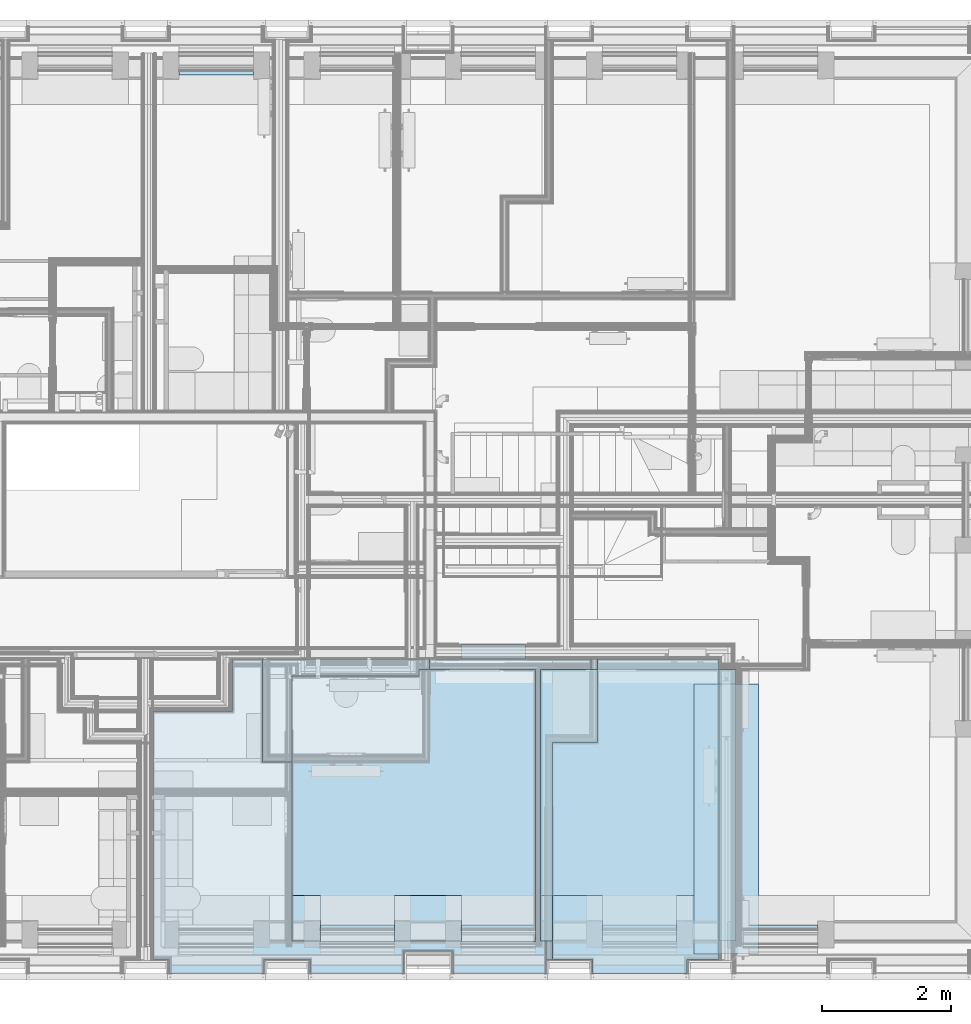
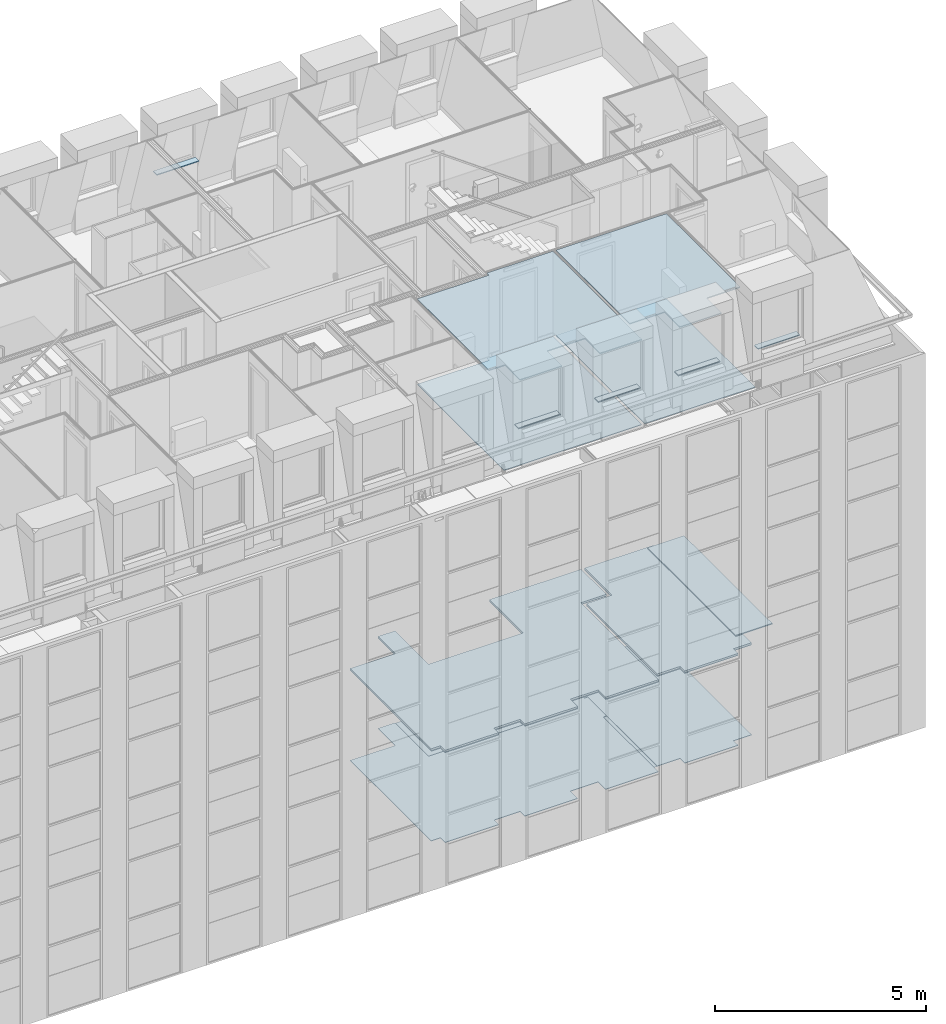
# One storey, part 76 of 169: 22 slabs.
"""IFC2X3 building model written with IfcOpenShell, lengths in metres."""

from ifc_helpers import new_model, entity, si_unit, converted_unit, derived_unit, money_unit, direction, frame, origin_with_axes, place, context, subcontext, project, spatial, faceted_brep, material, type_object, element, save


model = new_model("IFC2X3")

# Units and contexts
model_context = context("Model", 3, precision=1e-05, world=origin_with_axes(), true_north=direction((0.0, 1.0)))
body_context = subcontext(model_context, "Body", "Model", "MODEL_VIEW", scale=1.0)
ifc_project = project(units=[si_unit("LENGTHUNIT", "METRE"), si_unit("AREAUNIT", "SQUARE_METRE"), si_unit("VOLUMEUNIT", "CUBIC_METRE"), si_unit("ABSORBEDDOSEUNIT", "GRAY"), si_unit("AMOUNTOFSUBSTANCEUNIT", "MOLE"), si_unit("DOSEEQUIVALENTUNIT", "SIEVERT"), si_unit("ELECTRICCAPACITANCEUNIT", "FARAD"), si_unit("ELECTRICCHARGEUNIT", "COULOMB"), si_unit("ELECTRICCONDUCTANCEUNIT", "SIEMENS"), si_unit("ELECTRICCURRENTUNIT", "AMPERE"), si_unit("ELECTRICRESISTANCEUNIT", "OHM"), si_unit("ELECTRICVOLTAGEUNIT", "VOLT"), si_unit("ENERGYUNIT", "JOULE"), si_unit("FORCEUNIT", "NEWTON"), si_unit("FREQUENCYUNIT", "HERTZ"), si_unit("ILLUMINANCEUNIT", "LUX"), si_unit("INDUCTANCEUNIT", "HENRY"), si_unit("LUMINOUSFLUXUNIT", "LUMEN"), si_unit("LUMINOUSINTENSITYUNIT", "CANDELA"), si_unit("MAGNETICFLUXDENSITYUNIT", "TESLA"), si_unit("MAGNETICFLUXUNIT", "WEBER"), si_unit("MASSUNIT", "GRAM"), converted_unit("PLANEANGLEUNIT", "degree", entity("IfcReal", 0.0174532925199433), si_unit("PLANEANGLEUNIT", "RADIAN"), dimensions=[0, 0, 0, 0, 0, 0, 0]), si_unit("POWERUNIT", "WATT"), si_unit("PRESSUREUNIT", "PASCAL"), si_unit("RADIOACTIVITYUNIT", "BECQUEREL"), si_unit("SOLIDANGLEUNIT", "STERADIAN"), si_unit("THERMODYNAMICTEMPERATUREUNIT", "KELVIN"), si_unit("TIMEUNIT", "SECOND"), derived_unit("ACCELERATIONUNIT", [(si_unit("LENGTHUNIT", "METRE"), 1), (si_unit("TIMEUNIT", "SECOND"), -2)]), derived_unit("ANGULARVELOCITYUNIT", [(converted_unit("PLANEANGLEUNIT", "degree", entity("IfcReal", 0.0174532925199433), si_unit("PLANEANGLEUNIT", "RADIAN"), dimensions=[0, 0, 0, 0, 0, 0, 0]), 1), (si_unit("TIMEUNIT", "SECOND"), -1)]), derived_unit("CURVATUREUNIT", [(converted_unit("PLANEANGLEUNIT", "degree", entity("IfcReal", 0.0174532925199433), si_unit("PLANEANGLEUNIT", "RADIAN"), dimensions=[0, 0, 0, 0, 0, 0, 0]), 1), (si_unit("LENGTHUNIT", "METRE"), -1)]), derived_unit("DYNAMICVISCOSITYUNIT", [(si_unit("PRESSUREUNIT", "PASCAL"), 1), (si_unit("TIMEUNIT", "SECOND"), 1)]), derived_unit("HEATFLUXDENSITYUNIT", [(si_unit("POWERUNIT", "WATT"), 1), (si_unit("LENGTHUNIT", "METRE"), -2)]), derived_unit("HEATINGVALUEUNIT", [(si_unit("ENERGYUNIT", "JOULE"), 1), (si_unit("MASSUNIT", "GRAM"), -1)]), derived_unit("INTEGERCOUNTRATEUNIT", [(si_unit("TIMEUNIT", "SECOND"), -1)]), derived_unit("IONCONCENTRATIONUNIT", [(si_unit("MASSUNIT", "GRAM"), 1), (si_unit("VOLUMEUNIT", "CUBIC_METRE"), -1)]), derived_unit("ISOTHERMALMOISTURECAPACITYUNIT", [(si_unit("VOLUMEUNIT", "CUBIC_METRE"), 1), (si_unit("MASSUNIT", "GRAM"), -1)]), derived_unit("KINEMATICVISCOSITYUNIT", [(si_unit("AREAUNIT", "SQUARE_METRE"), 1), (si_unit("TIMEUNIT", "SECOND"), -1)]), derived_unit("LINEARFORCEUNIT", [(si_unit("FORCEUNIT", "NEWTON"), 1), (si_unit("LENGTHUNIT", "METRE"), -1)]), derived_unit("LINEARMOMENTUNIT", [(si_unit("FORCEUNIT", "NEWTON"), 1), (si_unit("LENGTHUNIT", "METRE"), -1)]), derived_unit("LINEARSTIFFNESSUNIT", [(si_unit("FORCEUNIT", "NEWTON"), 1), (si_unit("LENGTHUNIT", "METRE"), -1)]), derived_unit("LINEARVELOCITYUNIT", [(si_unit("LENGTHUNIT", "METRE"), 1), (si_unit("TIMEUNIT", "SECOND"), -1)]), derived_unit("LUMINOUSINTENSITYDISTRIBUTIONUNIT", [(si_unit("LUMINOUSINTENSITYUNIT", "CANDELA"), 1), (si_unit("LUMINOUSFLUXUNIT", "LUMEN"), -1)]), derived_unit("MASSDENSITYUNIT", [(si_unit("MASSUNIT", "GRAM"), 1), (si_unit("VOLUMEUNIT", "CUBIC_METRE"), -1)]), derived_unit("MASSFLOWRATEUNIT", [(si_unit("MASSUNIT", "GRAM"), 1), (si_unit("TIMEUNIT", "SECOND"), -1)]), derived_unit("MASSPERLENGTHUNIT", [(si_unit("MASSUNIT", "GRAM"), 1), (si_unit("LENGTHUNIT", "METRE"), -1)]), derived_unit("MODULUSOFELASTICITYUNIT", [(si_unit("FORCEUNIT", "NEWTON"), 1), (si_unit("AREAUNIT", "SQUARE_METRE"), -1)]), derived_unit("MODULUSOFLINEARSUBGRADEREACTIONUNIT", [(si_unit("FORCEUNIT", "NEWTON"), 1), (si_unit("LENGTHUNIT", "METRE"), -2)]), derived_unit("MODULUSOFROTATIONALSUBGRADEREACTIONUNIT", [(si_unit("FORCEUNIT", "NEWTON"), 1), (si_unit("LENGTHUNIT", "METRE"), 1)]), derived_unit("MODULUSOFSUBGRADEREACTIONUNIT", [(si_unit("FORCEUNIT", "NEWTON"), 1), (si_unit("VOLUMEUNIT", "CUBIC_METRE"), -1)]), derived_unit("MOISTUREDIFFUSIVITYUNIT", [(si_unit("VOLUMEUNIT", "CUBIC_METRE"), 1), (si_unit("TIMEUNIT", "SECOND"), -1)]), derived_unit("MOLECULARWEIGHTUNIT", [(si_unit("MASSUNIT", "GRAM"), 1), (si_unit("AMOUNTOFSUBSTANCEUNIT", "MOLE"), -1)]), derived_unit("PLANARFORCEUNIT", [(si_unit("FORCEUNIT", "NEWTON"), 1), (si_unit("LENGTHUNIT", "METRE"), -2)]), derived_unit("ROTATIONALFREQUENCYUNIT", [(si_unit("TIMEUNIT", "SECOND"), -1)]), derived_unit("ROTATIONALMASSUNIT", [(si_unit("MASSUNIT", "GRAM"), 1), (si_unit("LENGTHUNIT", "METRE"), 2)]), derived_unit("ROTATIONALSTIFFNESSUNIT", [(si_unit("FORCEUNIT", "NEWTON"), 1), (si_unit("LENGTHUNIT", "METRE"), 1), (converted_unit("PLANEANGLEUNIT", "degree", entity("IfcReal", 0.0174532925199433), si_unit("PLANEANGLEUNIT", "RADIAN"), dimensions=[0, 0, 0, 0, 0, 0, 0]), -1)]), derived_unit("SECTIONAREAINTEGRALUNIT", [(si_unit("LENGTHUNIT", "METRE"), 5)]), derived_unit("SECTIONMODULUSUNIT", [(si_unit("LENGTHUNIT", "METRE"), 3)]), derived_unit("SHEARMODULUSUNIT", [(si_unit("FORCEUNIT", "NEWTON"), 1), (si_unit("AREAUNIT", "SQUARE_METRE"), -1)]), derived_unit("SOUNDPOWERUNIT", [(si_unit("ENERGYUNIT", "JOULE"), 1), (si_unit("TIMEUNIT", "SECOND"), -1)]), derived_unit("SPECIFICHEATCAPACITYUNIT", [(si_unit("FORCEUNIT", "NEWTON"), 1), (si_unit("MASSUNIT", "GRAM"), -1), (si_unit("THERMODYNAMICTEMPERATUREUNIT", "KELVIN"), -1)]), derived_unit("TEMPERATUREGRADIENTUNIT", [(si_unit("THERMODYNAMICTEMPERATUREUNIT", "KELVIN"), 1), (si_unit("LENGTHUNIT", "METRE"), -1)]), derived_unit("THERMALADMITTANCEUNIT", [(si_unit("POWERUNIT", "WATT"), 1), (si_unit("AREAUNIT", "SQUARE_METRE"), -1), (si_unit("THERMODYNAMICTEMPERATUREUNIT", "KELVIN"), -1)]), derived_unit("THERMALCONDUCTANCEUNIT", [(si_unit("POWERUNIT", "WATT"), 1), (si_unit("LENGTHUNIT", "METRE"), -1), (si_unit("THERMODYNAMICTEMPERATUREUNIT", "KELVIN"), -1)]), derived_unit("THERMALEXPANSIONCOEFFICIENTUNIT", [(si_unit("THERMODYNAMICTEMPERATUREUNIT", "KELVIN"), -1)]), derived_unit("THERMALRESISTANCEUNIT", [(si_unit("AREAUNIT", "SQUARE_METRE"), 1), (si_unit("POWERUNIT", "WATT"), -1)]), derived_unit("THERMALTRANSMITTANCEUNIT", [(si_unit("POWERUNIT", "WATT"), 1), (si_unit("AREAUNIT", "SQUARE_METRE"), -1), (si_unit("THERMODYNAMICTEMPERATUREUNIT", "KELVIN"), -1)]), derived_unit("TORQUEUNIT", [(si_unit("FORCEUNIT", "NEWTON"), 1), (si_unit("LENGTHUNIT", "METRE"), 1)]), derived_unit("VAPORPERMEABILITYUNIT", [(si_unit("MASSUNIT", "GRAM"), 1), (si_unit("TIMEUNIT", "SECOND"), -1)]), derived_unit("VOLUMETRICFLOWRATEUNIT", [(si_unit("VOLUMEUNIT", "CUBIC_METRE"), 1), (si_unit("TIMEUNIT", "SECOND"), -1)]), derived_unit("WARPINGCONSTANTUNIT", [(si_unit("LENGTHUNIT", "METRE"), 6)]), derived_unit("WARPINGMOMENTUNIT", [(si_unit("FORCEUNIT", "NEWTON"), 1), (si_unit("LENGTHUNIT", "METRE"), 2)]), money_unit("GBP")], contexts=[model_context])

# Site, building, storey
site_placement = place(None, origin_with_axes())
site = spatial("IfcSite", under=ifc_project, at=site_placement, Name="Site", CompositionType="ELEMENT")
building_placement = place(site_placement, origin_with_axes())
building = spatial("IfcBuilding", under=site, at=building_placement, Name="Building01", CompositionType="ELEMENT")
storey_placement = place(building_placement, frame((0.0, 0.0, 5.15), z_axis=(0.0, 0.0, 1.0), x_axis=(1.0, 0.0, 0.0)))
storey = spatial("IfcBuildingStorey", under=building, at=storey_placement, Name="1F", CompositionType="ELEMENT", Elevation=5.15)

# Slabs
ifc_material_1 = material(Name="A_BSUK_ExpandedPolystyreneBoards")
slab_type_1 = type_object("IfcSlabType", Name="A-FloorsSlabs A_BSUK_Slabs", PredefinedType="FLOOR")
placement = place(storey_placement, frame((0.0, 0.0, -5.15), z_axis=(0.0, 0.0, 1.0), x_axis=(1.0, 0.0, 0.0)))
element("IfcSlab", 1, at=placement, inside=storey, type_object=slab_type_1, material=ifc_material_1, Name="A-FloorsSlabs A_BSUK_Slabs", ObjectType="CompoundSlabLeaf", context=body_context, shape_type="Brep", body=[
    faceted_brep([(14.85, 4.164428, 5.15), (14.85, 4.164428, 5.153), (14.85, 4.98, 5.153), (14.85, 4.98, 5.15), (13.6125, 4.164428, 5.15), (13.6125, 4.164428, 5.153), (13.6125, 0.318, 5.15), (13.6125, 0.318, 5.153), (13.865, 0.318, 5.15), (13.865, 0.318, 5.153), (13.865, 0.1, 5.15), (13.865, 0.1, 5.153), (15.335, 0.1, 5.15), (15.335, 0.1, 5.153), (15.335, 0.318, 5.15), (15.335, 0.318, 5.153), (16.055, 0.318, 5.15), (16.055, 0.318, 5.153), (16.055, 0.1, 5.15), (16.055, 0.1, 5.153), (17.502, 0.1, 5.15), (17.502, 0.1, 5.153), (17.502, 0.448, 5.15), (17.502, 0.448, 5.153), (18.268, 0.448, 5.15), (18.268, 0.448, 5.153), (18.268, 0.1, 5.15), (18.268, 0.1, 5.153), (19.715, 0.1, 5.15), (19.715, 0.1, 5.153), (19.715, 0.318, 5.15), (19.715, 0.318, 5.153), (20.435, 0.318, 5.15), (20.435, 0.318, 5.153), (20.435, 0.1, 5.15), (20.435, 0.1, 5.153), (21.905, 0.1, 5.15), (21.905, 0.1, 5.153), (21.905, 0.318, 5.15), (21.905, 0.318, 5.153), (22.4, 0.318, 5.15), (22.4, 0.318, 5.153), (22.4, 4.98, 5.15), (22.4, 4.98, 5.153), (19.392, 4.98, 5.15), (19.392, 4.98, 5.153), (19.392, 5.205, 5.15), (19.392, 5.205, 5.153), (18.392, 5.205, 5.15), (18.392, 5.205, 5.153), (18.392, 4.98, 5.15), (18.392, 4.98, 5.153), (18.0, 4.98, 5.15), (18.0, 4.98, 5.153)], [[[0, 1, 2, 3]], [[4, 5, 1, 0]], [[6, 7, 5, 4]], [[8, 9, 7, 6]], [[10, 11, 9, 8]], [[12, 13, 11, 10]], [[14, 15, 13, 12]], [[16, 17, 15, 14]], [[18, 19, 17, 16]], [[20, 21, 19, 18]], [[22, 23, 21, 20]], [[24, 25, 23, 22]], [[26, 27, 25, 24]], [[28, 29, 27, 26]], [[30, 31, 29, 28]], [[32, 33, 31, 30]], [[34, 35, 33, 32]], [[36, 37, 35, 34]], [[38, 39, 37, 36]], [[40, 41, 39, 38]], [[42, 43, 41, 40]], [[44, 45, 43, 42]], [[46, 47, 45, 44]], [[48, 49, 47, 46]], [[50, 51, 49, 48]], [[52, 53, 51, 50]], [[3, 2, 53, 52]], [[1, 5, 7, 9, 11, 13, 15, 17, 19, 21, 23, 25, 27, 29, 31, 33, 35, 37, 39, 41, 43, 45, 47, 49, 51, 53, 2]], [[3, 52, 50, 48, 46, 44, 42, 40, 38, 36, 34, 32, 30, 28, 26, 24, 22, 20, 18, 16, 14, 12, 10, 8, 6, 4, 0]]]),
])
ifc_material_2 = material(Name="A_BSUK_Parquet_Floor")
element("IfcSlab", 2, at=placement, inside=storey, type_object=slab_type_1, material=ifc_material_2, Name="A-FloorsSlabs A_BSUK_Slabs", ObjectType="CompoundSlabLeaf", context=body_context, shape_type="Brep", body=[
    faceted_brep([(18.392, 4.98, 5.153), (18.392, 4.98, 5.165), (18.392, 5.205, 5.165), (18.392, 5.205, 5.153), (17.9025, 4.98, 5.153), (17.9025, 4.98, 5.165), (17.9025, 4.363781, 5.153), (17.9025, 4.363781, 5.165), (17.8075, 4.363781, 5.153), (17.8075, 4.363781, 5.165), (17.8075, 3.613781, 5.153), (17.8075, 3.613781, 5.165), (17.9025, 3.613781, 5.153), (17.9025, 3.613781, 5.165), (17.9025, 3.385, 5.153), (17.9025, 3.385, 5.165), (15.3125, 3.385, 5.153), (15.3125, 3.385, 5.165), (15.3125, 4.98, 5.153), (15.3125, 4.98, 5.165), (14.85, 4.98, 5.153), (14.85, 4.98, 5.165), (14.85, 4.164428, 5.153), (14.85, 4.164428, 5.165), (13.6125, 4.164428, 5.153), (13.6125, 4.164428, 5.165), (13.6125, 0.318, 5.153), (13.6125, 0.318, 5.165), (13.865, 0.318, 5.153), (13.865, 0.318, 5.165), (13.865, 0.1, 5.153), (13.865, 0.1, 5.165), (15.335, 0.1, 5.153), (15.335, 0.1, 5.165), (15.335, 0.318, 5.153), (15.335, 0.318, 5.165), (16.055, 0.318, 5.153), (16.055, 0.318, 5.165), (16.055, 0.1, 5.153), (16.055, 0.1, 5.165), (17.502, 0.1, 5.153), (17.502, 0.1, 5.165), (17.502, 0.448, 5.153), (17.502, 0.448, 5.165), (18.268, 0.448, 5.153), (18.268, 0.448, 5.165), (18.268, 0.1, 5.153), (18.268, 0.1, 5.165), (19.715, 0.1, 5.153), (19.715, 0.1, 5.165), (19.715, 2.716, 5.153), (19.715, 2.716, 5.165), (19.81, 2.716, 5.153), (19.81, 2.716, 5.165), (19.81, 3.616, 5.153), (19.81, 3.616, 5.165), (19.715, 3.616, 5.153), (19.715, 3.616, 5.165), (19.715, 3.78, 5.153), (19.715, 3.78, 5.165), (20.415, 3.78, 5.153), (20.415, 3.78, 5.165), (20.415, 4.98, 5.153), (20.415, 4.98, 5.165), (19.392, 4.98, 5.153), (19.392, 4.98, 5.165), (19.392, 5.205, 5.153), (19.392, 5.205, 5.165)], [[[0, 1, 2, 3]], [[4, 5, 1, 0]], [[6, 7, 5, 4]], [[8, 9, 7, 6]], [[10, 11, 9, 8]], [[12, 13, 11, 10]], [[14, 15, 13, 12]], [[16, 17, 15, 14]], [[18, 19, 17, 16]], [[20, 21, 19, 18]], [[22, 23, 21, 20]], [[24, 25, 23, 22]], [[26, 27, 25, 24]], [[28, 29, 27, 26]], [[30, 31, 29, 28]], [[32, 33, 31, 30]], [[34, 35, 33, 32]], [[36, 37, 35, 34]], [[38, 39, 37, 36]], [[40, 41, 39, 38]], [[42, 43, 41, 40]], [[44, 45, 43, 42]], [[46, 47, 45, 44]], [[48, 49, 47, 46]], [[50, 51, 49, 48]], [[52, 53, 51, 50]], [[54, 55, 53, 52]], [[56, 57, 55, 54]], [[58, 59, 57, 56]], [[60, 61, 59, 58]], [[62, 63, 61, 60]], [[64, 65, 63, 62]], [[66, 67, 65, 64]], [[3, 2, 67, 66]], [[1, 5, 7, 9, 11, 13, 15, 17, 19, 21, 23, 25, 27, 29, 31, 33, 35, 37, 39, 41, 43, 45, 47, 49, 51, 53, 55, 57, 59, 61, 63, 65, 67, 2]], [[3, 66, 64, 62, 60, 58, 56, 54, 52, 50, 48, 46, 44, 42, 40, 38, 36, 34, 32, 30, 28, 26, 24, 22, 20, 18, 16, 14, 12, 10, 8, 6, 4, 0]]]),
])
ifc_material_3 = material(Name="A_BSUK_Carpet-Pile")
element("IfcSlab", 3, at=placement, inside=storey, type_object=slab_type_1, material=ifc_material_3, Name="A-FloorsSlabs A_BSUK_Slabs", ObjectType="CompoundSlabLeaf", context=body_context, shape_type="Brep", body=[
    faceted_brep([(20.51, 4.98, 5.153), (20.51, 4.98, 5.165), (22.4, 4.98, 5.165), (22.4, 4.98, 5.153), (20.51, 3.685, 5.153), (20.51, 3.685, 5.165), (19.81, 3.685, 5.153), (19.81, 3.685, 5.165), (19.81, 0.318, 5.153), (19.81, 0.318, 5.165), (20.435, 0.318, 5.153), (20.435, 0.318, 5.165), (20.435, 0.1, 5.153), (20.435, 0.1, 5.165), (21.905, 0.1, 5.153), (21.905, 0.1, 5.165), (21.905, 0.318, 5.153), (21.905, 0.318, 5.165), (22.4, 0.318, 5.153), (22.4, 0.318, 5.165)], [[[0, 1, 2, 3]], [[4, 5, 1, 0]], [[6, 7, 5, 4]], [[8, 9, 7, 6]], [[10, 11, 9, 8]], [[12, 13, 11, 10]], [[14, 15, 13, 12]], [[16, 17, 15, 14]], [[18, 19, 17, 16]], [[3, 2, 19, 18]], [[1, 5, 7, 9, 11, 13, 15, 17, 19, 2]], [[3, 18, 16, 14, 12, 10, 8, 6, 4, 0]]]),
])
ifc_material_4 = material(Name="A_BSUK_CeilingSoffitFinishes_Suspended")
element("IfcSlab", 4, at=placement, inside=storey, type_object=slab_type_1, material=ifc_material_4, Name="A-FloorsSlabs A_BSUK_Slabs", ObjectType="CompoundSlabLeaf", context=body_context, shape_type="Brep", body=[
    faceted_brep([(17.9025, 4.98, 7.765), (17.9025, 4.98, 7.78), (18.395, 4.98, 7.78), (18.395, 4.98, 7.765), (17.9025, 4.232781, 7.765), (17.9025, 4.232781, 7.78), (17.9025, 3.385, 7.765), (17.9025, 3.385, 7.78), (15.3125, 3.385, 7.765), (15.3125, 3.385, 7.78), (15.3125, 4.98, 7.765), (15.3125, 4.98, 7.78), (14.85, 4.98, 7.765), (14.85, 4.98, 7.78), (14.85, 4.164428, 7.765), (14.85, 4.164428, 7.78), (13.6125, 4.164428, 7.765), (13.6125, 4.164428, 7.78), (13.6125, 0.318, 7.765), (13.6125, 0.318, 7.78), (13.865, 0.318, 7.765), (13.865, 0.318, 7.78), (13.865, 0.1, 7.765), (13.865, 0.1, 7.78), (15.335, 0.1, 7.765), (15.335, 0.1, 7.78), (15.335, 0.318, 7.765), (15.335, 0.318, 7.78), (16.055, 0.318, 7.765), (16.055, 0.318, 7.78), (16.055, 0.1, 7.765), (16.055, 0.1, 7.78), (17.502, 0.1, 7.765), (17.502, 0.1, 7.78), (17.502, 0.448, 7.765), (17.502, 0.448, 7.78), (18.268, 0.448, 7.765), (18.268, 0.448, 7.78), (18.268, 0.1, 7.765), (18.268, 0.1, 7.78), (19.715, 0.1, 7.765), (19.715, 0.1, 7.78), (19.715, 3.151781, 7.765), (19.715, 3.151781, 7.78), (19.715, 3.78, 7.765), (19.715, 3.78, 7.78), (20.415, 3.78, 7.765), (20.415, 3.78, 7.78), (20.415, 4.98, 7.765), (20.415, 4.98, 7.78), (19.395, 4.98, 7.765), (19.395, 4.98, 7.78)], [[[0, 1, 2, 3]], [[4, 5, 1, 0]], [[6, 7, 5, 4]], [[8, 9, 7, 6]], [[10, 11, 9, 8]], [[12, 13, 11, 10]], [[14, 15, 13, 12]], [[16, 17, 15, 14]], [[18, 19, 17, 16]], [[20, 21, 19, 18]], [[22, 23, 21, 20]], [[24, 25, 23, 22]], [[26, 27, 25, 24]], [[28, 29, 27, 26]], [[30, 31, 29, 28]], [[32, 33, 31, 30]], [[34, 35, 33, 32]], [[36, 37, 35, 34]], [[38, 39, 37, 36]], [[40, 41, 39, 38]], [[42, 43, 41, 40]], [[44, 45, 43, 42]], [[46, 47, 45, 44]], [[48, 49, 47, 46]], [[50, 51, 49, 48]], [[3, 2, 51, 50]], [[1, 5, 7, 9, 11, 13, 15, 17, 19, 21, 23, 25, 27, 29, 31, 33, 35, 37, 39, 41, 43, 45, 47, 49, 51, 2]], [[3, 50, 48, 46, 44, 42, 40, 38, 36, 34, 32, 30, 28, 26, 24, 22, 20, 18, 16, 14, 12, 10, 8, 6, 4, 0]]]),
])
element("IfcSlab", 5, at=placement, inside=storey, type_object=slab_type_1, material=ifc_material_4, Name="A-FloorsSlabs A_BSUK_Slabs", ObjectType="CompoundSlabLeaf", context=body_context, shape_type="Brep", body=[
    faceted_brep([(20.51, 4.98, 7.765), (20.51, 4.98, 7.78), (22.4, 4.98, 7.78), (22.4, 4.98, 7.765), (20.51, 3.685, 7.765), (20.51, 3.685, 7.78), (19.81, 3.685, 7.765), (19.81, 3.685, 7.78), (19.81, 0.318, 7.765), (19.81, 0.318, 7.78), (20.435, 0.318, 7.765), (20.435, 0.318, 7.78), (20.435, 0.1, 7.765), (20.435, 0.1, 7.78), (21.905, 0.1, 7.765), (21.905, 0.1, 7.78), (21.905, 0.318, 7.765), (21.905, 0.318, 7.78), (22.4, 0.318, 7.765), (22.4, 0.318, 7.78)], [[[0, 1, 2, 3]], [[4, 5, 1, 0]], [[6, 7, 5, 4]], [[8, 9, 7, 6]], [[10, 11, 9, 8]], [[12, 13, 11, 10]], [[14, 15, 13, 12]], [[16, 17, 15, 14]], [[18, 19, 17, 16]], [[3, 2, 19, 18]], [[1, 5, 7, 9, 11, 13, 15, 17, 19, 2]], [[3, 18, 16, 14, 12, 10, 8, 6, 4, 0]]]),
])
element("IfcSlab", 6, at=placement, inside=storey, type_object=slab_type_1, material=ifc_material_4, Name="A-FloorsSlabs A_BSUK_Slabs", ObjectType="CompoundSlabLeaf", context=body_context, shape_type="Brep", body=[
    faceted_brep([(22.0125, 0.4, 8.115), (22.0125, 0.4, 8.13), (22.0125, 4.593, 8.13), (22.0125, 4.593, 8.115), (23.0125, 0.4, 8.115), (23.0125, 0.4, 8.13), (23.0125, 4.593, 8.115), (23.0125, 4.593, 8.13)], [[[0, 1, 2, 3]], [[4, 5, 1, 0]], [[6, 7, 5, 4]], [[3, 2, 7, 6]], [[1, 5, 7, 2]], [[3, 6, 4, 0]]]),
])
element("IfcSlab", 7, at=placement, inside=storey, type_object=slab_type_1, material=ifc_material_4, Name="A-FloorsSlabs A_BSUK_Slabs", ObjectType="CompoundSlabLeaf", context=body_context, shape_type="Brep", body=[
    faceted_brep([(22.0125, 0.4, 8.1), (22.0125, 0.4, 8.115), (22.0125, 4.593, 8.115), (22.0125, 4.593, 8.1), (23.0125, 0.4, 8.1), (23.0125, 0.4, 8.115), (23.0125, 4.593, 8.1), (23.0125, 4.593, 8.115)], [[[0, 1, 2, 3]], [[4, 5, 1, 0]], [[6, 7, 5, 4]], [[3, 2, 7, 6]], [[1, 5, 7, 2]], [[3, 6, 4, 0]]]),
])
element("IfcSlab", 8, at=placement, inside=storey, type_object=slab_type_1, material=ifc_material_4, Name="A-FloorsSlabs A_BSUK_Slabs", ObjectType="CompoundSlabLeaf", context=body_context, shape_type="Brep", body=[
    faceted_brep([(22.660024, 4.817, 17.423), (22.660024, 4.817, 17.438), (22.660024, 1.312402, 17.438), (22.660024, 1.312402, 17.423), (19.629976, 4.817, 17.423), (19.629976, 4.817, 17.438), (19.629976, 1.312402, 17.423), (19.629976, 1.312402, 17.438), (20.590024, 1.312402, 17.423), (20.590024, 1.312402, 17.438), (20.590024, 0.599939, 17.423), (20.590024, 0.599939, 17.438), (21.739976, 0.599939, 17.423), (21.739976, 0.599939, 17.438), (21.739976, 1.312402, 17.423), (21.739976, 1.312402, 17.438)], [[[0, 1, 2, 3]], [[4, 5, 1, 0]], [[6, 7, 5, 4]], [[8, 9, 7, 6]], [[10, 11, 9, 8]], [[12, 13, 11, 10]], [[14, 15, 13, 12]], [[3, 2, 15, 14]], [[1, 5, 7, 9, 11, 13, 15, 2]], [[3, 14, 12, 10, 8, 6, 4, 0]]]),
])
element("IfcSlab", 9, at=placement, inside=storey, type_object=slab_type_1, material=ifc_material_4, Name="A-FloorsSlabs A_BSUK_Slabs", ObjectType="CompoundSlabLeaf", context=body_context, shape_type="Brep", body=[
    faceted_brep([(19.549976, 4.817, 17.423), (19.549976, 4.817, 17.438), (19.549976, 0.599939, 17.438), (19.549976, 0.599939, 17.423), (17.73844, 4.817, 17.423), (17.73844, 4.817, 17.438), (17.73844, 4.717, 17.423), (17.73844, 4.717, 17.438), (15.77, 4.717, 17.423), (15.77, 4.717, 17.438), (15.77, 1.31, 17.423), (15.77, 1.31, 17.438), (16.210024, 1.31, 17.423), (16.210024, 1.31, 17.438), (16.210024, 0.599939, 17.423), (16.210024, 0.599939, 17.438), (17.359976, 0.599939, 17.423), (17.359976, 0.599939, 17.438), (17.359976, 1.312402, 17.423), (17.359976, 1.312402, 17.438), (18.400024, 1.312402, 17.423), (18.400024, 1.312402, 17.438), (18.400024, 0.599939, 17.423), (18.400024, 0.599939, 17.438)], [[[0, 1, 2, 3]], [[4, 5, 1, 0]], [[6, 7, 5, 4]], [[8, 9, 7, 6]], [[10, 11, 9, 8]], [[12, 13, 11, 10]], [[14, 15, 13, 12]], [[16, 17, 15, 14]], [[18, 19, 17, 16]], [[20, 21, 19, 18]], [[22, 23, 21, 20]], [[3, 2, 23, 22]], [[1, 5, 7, 9, 11, 13, 15, 17, 19, 21, 23, 2]], [[3, 22, 20, 18, 16, 14, 12, 10, 8, 6, 4, 0]]]),
])
element("IfcSlab", 10, at=placement, inside=storey, type_object=slab_type_1, material=ifc_material_1, Name="A-FloorsSlabs A_BSUK_Slabs", ObjectType="CompoundSlabLeaf", context=body_context, shape_type="Brep", body=[
    faceted_brep([(22.660024, 4.817, 14.965), (22.660024, 4.817, 14.968), (22.660024, 0.6038, 14.968), (22.660024, 0.6038, 14.965), (19.629976, 4.817, 14.965), (19.629976, 4.817, 14.968), (19.629976, 0.6038, 14.965), (19.629976, 0.6038, 14.968), (20.590024, 0.6038, 14.965), (20.590024, 0.6038, 14.968), (21.739976, 0.6038, 14.965), (21.739976, 0.6038, 14.968)], [[[0, 1, 2, 3]], [[4, 5, 1, 0]], [[6, 7, 5, 4]], [[8, 9, 7, 6]], [[10, 11, 9, 8]], [[3, 2, 11, 10]], [[1, 5, 7, 9, 11, 2]], [[3, 10, 8, 6, 4, 0]]]),
])
element("IfcSlab", 11, at=placement, inside=storey, type_object=slab_type_1, material=ifc_material_1, Name="A-FloorsSlabs A_BSUK_Slabs", ObjectType="CompoundSlabLeaf", context=body_context, shape_type="Brep", body=[
    faceted_brep([(19.549976, 4.817, 14.965), (19.549976, 4.817, 14.968), (19.549976, 0.6038, 14.968), (19.549976, 0.6038, 14.965), (17.73844, 4.817, 14.965), (17.73844, 4.817, 14.968), (17.73844, 4.717, 14.965), (17.73844, 4.717, 14.968), (15.77, 4.717, 14.965), (15.77, 4.717, 14.968), (15.77, 0.6038, 14.965), (15.77, 0.6038, 14.968), (16.210024, 0.6038, 14.965), (16.210024, 0.6038, 14.968), (17.359976, 0.6038, 14.965), (17.359976, 0.6038, 14.968), (18.400024, 0.6038, 14.965), (18.400024, 0.6038, 14.968)], [[[0, 1, 2, 3]], [[4, 5, 1, 0]], [[6, 7, 5, 4]], [[8, 9, 7, 6]], [[10, 11, 9, 8]], [[12, 13, 11, 10]], [[14, 15, 13, 12]], [[16, 17, 15, 14]], [[3, 2, 17, 16]], [[1, 5, 7, 9, 11, 13, 15, 17, 2]], [[3, 16, 14, 12, 10, 8, 6, 4, 0]]]),
])
ifc_material_5 = material(Name="A_BSUK_Timber_Miscellaneous")
element("IfcSlab", 12, at=placement, inside=storey, type_object=slab_type_1, material=ifc_material_5, Name="A-FloorsSlabs A_BSUK_Slabs", ObjectType="CompoundSlabLeaf", context=body_context, shape_type="Brep", body=[
    faceted_brep([(17.360024, 0.849939, 15.98), (17.360024, 0.849939, 16.005), (17.360024, 0.675339, 16.005), (17.360024, 0.675339, 15.98), (16.210024, 0.849939, 15.98), (16.210024, 0.849939, 16.005), (16.210025, 0.675339, 15.98), (16.210025, 0.675339, 16.005)], [[[0, 1, 2, 3]], [[4, 5, 1, 0]], [[6, 7, 5, 4]], [[3, 2, 7, 6]], [[1, 5, 7, 2]], [[3, 6, 4, 0]]]),
])
element("IfcSlab", 13, at=placement, inside=storey, type_object=slab_type_1, material=ifc_material_5, Name="A-FloorsSlabs A_BSUK_Slabs", ObjectType="CompoundSlabLeaf", context=body_context, shape_type="Brep", body=[
    faceted_brep([(19.550024, 0.849939, 15.98), (19.550024, 0.849939, 16.005), (19.550024, 0.675339, 16.005), (19.550024, 0.675339, 15.98), (18.400024, 0.849939, 15.98), (18.400024, 0.849939, 16.005), (18.400025, 0.675339, 15.98), (18.400025, 0.675339, 16.005)], [[[0, 1, 2, 3]], [[4, 5, 1, 0]], [[6, 7, 5, 4]], [[3, 2, 7, 6]], [[1, 5, 7, 2]], [[3, 6, 4, 0]]]),
])
element("IfcSlab", 14, at=placement, inside=storey, type_object=slab_type_1, material=ifc_material_5, Name="A-FloorsSlabs A_BSUK_Slabs", ObjectType="CompoundSlabLeaf", context=body_context, shape_type="Brep", body=[
    faceted_brep([(21.740024, 0.849939, 15.98), (21.740024, 0.849939, 16.005), (21.740024, 0.675339, 16.005), (21.740024, 0.675339, 15.98), (20.590024, 0.849939, 15.98), (20.590024, 0.849939, 16.005), (20.590025, 0.675339, 15.98), (20.590025, 0.675339, 16.005)], [[[0, 1, 2, 3]], [[4, 5, 1, 0]], [[6, 7, 5, 4]], [[3, 2, 7, 6]], [[1, 5, 7, 2]], [[3, 6, 4, 0]]]),
])
element("IfcSlab", 15, at=placement, inside=storey, type_object=slab_type_1, material=ifc_material_5, Name="A-FloorsSlabs A_BSUK_Slabs", ObjectType="CompoundSlabLeaf", context=body_context, shape_type="Brep", body=[
    faceted_brep([(23.930024, 0.849939, 15.98), (23.930024, 0.849939, 16.005), (23.930024, 0.675339, 16.005), (23.930024, 0.675339, 15.98), (22.780024, 0.849939, 15.98), (22.780024, 0.849939, 16.005), (22.780025, 0.675339, 15.98), (22.780025, 0.675339, 16.005)], [[[0, 1, 2, 3]], [[4, 5, 1, 0]], [[6, 7, 5, 4]], [[3, 2, 7, 6]], [[1, 5, 7, 2]], [[3, 6, 4, 0]]]),
])
element("IfcSlab", 16, at=placement, inside=storey, type_object=slab_type_1, material=ifc_material_5, Name="A-FloorsSlabs A_BSUK_Slabs", ObjectType="CompoundSlabLeaf", context=body_context, shape_type="Brep", body=[
    faceted_brep([(15.170024, 14.224661, 15.98), (15.170024, 14.224661, 16.005), (15.170024, 14.050061, 16.005), (15.170024, 14.050061, 15.98), (14.020024, 14.224661, 15.98), (14.020024, 14.224661, 16.005), (14.020024, 14.050062, 15.98), (14.020024, 14.050062, 16.005)], [[[0, 1, 2, 3]], [[4, 5, 1, 0]], [[6, 7, 5, 4]], [[3, 2, 7, 6]], [[1, 5, 7, 2]], [[3, 6, 4, 0]]]),
])
element("IfcSlab", 17, at=placement, inside=storey, type_object=slab_type_1, material=ifc_material_4, Name="A-FloorsSlabs A_BSUK_Slabs", ObjectType="CompoundSlabLeaf", context=body_context, shape_type="Brep", body=[
    faceted_brep([(22.660024, 4.817, 17.438), (22.660024, 4.817, 17.453), (22.660024, 1.312402, 17.453), (22.660024, 1.312402, 17.438), (19.629976, 4.817, 17.438), (19.629976, 4.817, 17.453), (19.629976, 1.312402, 17.438), (19.629976, 1.312402, 17.453), (20.590024, 1.312402, 17.438), (20.590024, 1.312402, 17.453), (20.590024, 0.599939, 17.438), (20.590024, 0.599939, 17.453), (21.739976, 0.599939, 17.438), (21.739976, 0.599939, 17.453), (21.739976, 1.312402, 17.438), (21.739976, 1.312402, 17.453)], [[[0, 1, 2, 3]], [[4, 5, 1, 0]], [[6, 7, 5, 4]], [[8, 9, 7, 6]], [[10, 11, 9, 8]], [[12, 13, 11, 10]], [[14, 15, 13, 12]], [[3, 2, 15, 14]], [[1, 5, 7, 9, 11, 13, 15, 2]], [[3, 14, 12, 10, 8, 6, 4, 0]]]),
])
element("IfcSlab", 18, at=placement, inside=storey, type_object=slab_type_1, material=ifc_material_4, Name="A-FloorsSlabs A_BSUK_Slabs", ObjectType="CompoundSlabLeaf", context=body_context, shape_type="Brep", body=[
    faceted_brep([(19.549976, 4.817, 17.438), (19.549976, 4.817, 17.453), (19.549976, 0.599939, 17.453), (19.549976, 0.599939, 17.438), (17.73844, 4.817, 17.438), (17.73844, 4.817, 17.453), (17.73844, 4.717, 17.438), (17.73844, 4.717, 17.453), (15.77, 4.717, 17.438), (15.77, 4.717, 17.453), (15.77, 1.31, 17.438), (15.77, 1.31, 17.453), (16.210024, 1.31, 17.438), (16.210024, 1.31, 17.453), (16.210024, 0.599939, 17.438), (16.210024, 0.599939, 17.453), (17.359976, 0.599939, 17.438), (17.359976, 0.599939, 17.453), (17.359976, 1.312402, 17.438), (17.359976, 1.312402, 17.453), (18.400024, 1.312402, 17.438), (18.400024, 1.312402, 17.453), (18.400024, 0.599939, 17.438), (18.400024, 0.599939, 17.453)], [[[0, 1, 2, 3]], [[4, 5, 1, 0]], [[6, 7, 5, 4]], [[8, 9, 7, 6]], [[10, 11, 9, 8]], [[12, 13, 11, 10]], [[14, 15, 13, 12]], [[16, 17, 15, 14]], [[18, 19, 17, 16]], [[20, 21, 19, 18]], [[22, 23, 21, 20]], [[3, 2, 23, 22]], [[1, 5, 7, 9, 11, 13, 15, 17, 19, 21, 23, 2]], [[3, 22, 20, 18, 16, 14, 12, 10, 8, 6, 4, 0]]]),
])
slab_type_2 = type_object("IfcSlabType", Name="A-FloorsSlabs A_BSUK_ExpandedPolystyreneBoards", PredefinedType="FLOOR")
element("IfcSlab", 19, at=placement, inside=storey, type_object=slab_type_2, material=ifc_material_1, Name="A-FloorsSlabs A_BSUK_ExpandedPolystyreneBoards", ObjectType="CompoundSlabLeaf", context=body_context, shape_type="Brep", body=[
    faceted_brep([(17.9025, 4.98, 7.78), (17.9025, 4.98, 7.83), (18.395, 4.98, 7.83), (18.395, 4.98, 7.78), (17.9025, 4.232781, 7.78), (17.9025, 4.232781, 7.83), (17.9025, 3.385, 7.78), (17.9025, 3.385, 7.83), (15.3125, 3.385, 7.78), (15.3125, 3.385, 7.83), (15.3125, 4.98, 7.78), (15.3125, 4.98, 7.83), (14.85, 4.98, 7.78), (14.85, 4.98, 7.83), (14.85, 4.164428, 7.78), (14.85, 4.164428, 7.83), (13.6125, 4.164428, 7.78), (13.6125, 4.164428, 7.83), (13.6125, 0.318, 7.78), (13.6125, 0.318, 7.83), (13.865, 0.318, 7.78), (13.865, 0.318, 7.83), (13.865, 0.1, 7.78), (13.865, 0.1, 7.83), (15.335, 0.1, 7.78), (15.335, 0.1, 7.83), (15.335, 0.318, 7.78), (15.335, 0.318, 7.83), (16.055, 0.318, 7.78), (16.055, 0.318, 7.83), (16.055, 0.1, 7.78), (16.055, 0.1, 7.83), (17.502, 0.1, 7.78), (17.502, 0.1, 7.83), (17.502, 0.448, 7.78), (17.502, 0.448, 7.83), (18.268, 0.448, 7.78), (18.268, 0.448, 7.83), (18.268, 0.1, 7.78), (18.268, 0.1, 7.83), (19.715, 0.1, 7.78), (19.715, 0.1, 7.83), (19.715, 3.151781, 7.78), (19.715, 3.151781, 7.83), (19.715, 3.78, 7.78), (19.715, 3.78, 7.83), (20.415, 3.78, 7.78), (20.415, 3.78, 7.83), (20.415, 4.98, 7.78), (20.415, 4.98, 7.83), (19.395, 4.98, 7.78), (19.395, 4.98, 7.83)], [[[0, 1, 2, 3]], [[4, 5, 1, 0]], [[6, 7, 5, 4]], [[8, 9, 7, 6]], [[10, 11, 9, 8]], [[12, 13, 11, 10]], [[14, 15, 13, 12]], [[16, 17, 15, 14]], [[18, 19, 17, 16]], [[20, 21, 19, 18]], [[22, 23, 21, 20]], [[24, 25, 23, 22]], [[26, 27, 25, 24]], [[28, 29, 27, 26]], [[30, 31, 29, 28]], [[32, 33, 31, 30]], [[34, 35, 33, 32]], [[36, 37, 35, 34]], [[38, 39, 37, 36]], [[40, 41, 39, 38]], [[42, 43, 41, 40]], [[44, 45, 43, 42]], [[46, 47, 45, 44]], [[48, 49, 47, 46]], [[50, 51, 49, 48]], [[3, 2, 51, 50]], [[1, 5, 7, 9, 11, 13, 15, 17, 19, 21, 23, 25, 27, 29, 31, 33, 35, 37, 39, 41, 43, 45, 47, 49, 51, 2]], [[3, 50, 48, 46, 44, 42, 40, 38, 36, 34, 32, 30, 28, 26, 24, 22, 20, 18, 16, 14, 12, 10, 8, 6, 4, 0]]]),
])
element("IfcSlab", 20, at=placement, inside=storey, type_object=slab_type_2, material=ifc_material_1, Name="A-FloorsSlabs A_BSUK_ExpandedPolystyreneBoards", ObjectType="CompoundSlabLeaf", context=body_context, shape_type="Brep", body=[
    faceted_brep([(20.51, 4.98, 7.78), (20.51, 4.98, 7.83), (22.4, 4.98, 7.83), (22.4, 4.98, 7.78), (20.51, 3.685, 7.78), (20.51, 3.685, 7.83), (19.81, 3.685, 7.78), (19.81, 3.685, 7.83), (19.81, 0.318, 7.78), (19.81, 0.318, 7.83), (20.435, 0.318, 7.78), (20.435, 0.318, 7.83), (20.435, 0.1, 7.78), (20.435, 0.1, 7.83), (21.905, 0.1, 7.78), (21.905, 0.1, 7.83), (21.905, 0.318, 7.78), (21.905, 0.318, 7.83), (22.4, 0.318, 7.78), (22.4, 0.318, 7.83)], [[[0, 1, 2, 3]], [[4, 5, 1, 0]], [[6, 7, 5, 4]], [[8, 9, 7, 6]], [[10, 11, 9, 8]], [[12, 13, 11, 10]], [[14, 15, 13, 12]], [[16, 17, 15, 14]], [[18, 19, 17, 16]], [[3, 2, 19, 18]], [[1, 5, 7, 9, 11, 13, 15, 17, 19, 2]], [[3, 18, 16, 14, 12, 10, 8, 6, 4, 0]]]),
])
slab_type_3 = type_object("IfcSlabType", Name="A-Finishes A_BSUK_Carpet-Pile", PredefinedType="FLOOR")
element("IfcSlab", 21, at=placement, inside=storey, type_object=slab_type_3, material=ifc_material_3, Name="A-Finishes A_BSUK_Carpet-Pile", ObjectType="CompoundSlabLeaf", context=body_context, shape_type="Brep", body=[
    faceted_brep([(22.660024, 4.817, 14.968), (22.660024, 4.817, 14.98), (22.660024, 0.6038, 14.98), (22.660024, 0.6038, 14.968), (19.629976, 4.817, 14.968), (19.629976, 4.817, 14.98), (19.629976, 0.6038, 14.968), (19.629976, 0.6038, 14.98), (20.590024, 0.6038, 14.968), (20.590024, 0.6038, 14.98), (21.739976, 0.6038, 14.968), (21.739976, 0.6038, 14.98)], [[[0, 1, 2, 3]], [[4, 5, 1, 0]], [[6, 7, 5, 4]], [[8, 9, 7, 6]], [[10, 11, 9, 8]], [[3, 2, 11, 10]], [[1, 5, 7, 9, 11, 2]], [[3, 10, 8, 6, 4, 0]]]),
])
element("IfcSlab", 22, at=placement, inside=storey, type_object=slab_type_3, material=ifc_material_3, Name="A-Finishes A_BSUK_Carpet-Pile", ObjectType="CompoundSlabLeaf", context=body_context, shape_type="Brep", body=[
    faceted_brep([(19.549976, 4.817, 14.968), (19.549976, 4.817, 14.98), (19.549976, 0.6038, 14.98), (19.549976, 0.6038, 14.968), (17.73844, 4.817, 14.968), (17.73844, 4.817, 14.98), (17.73844, 4.717, 14.968), (17.73844, 4.717, 14.98), (15.77, 4.717, 14.968), (15.77, 4.717, 14.98), (15.77, 0.6038, 14.968), (15.77, 0.6038, 14.98), (16.210024, 0.6038, 14.968), (16.210024, 0.6038, 14.98), (17.359976, 0.6038, 14.968), (17.359976, 0.6038, 14.98), (18.400024, 0.6038, 14.968), (18.400024, 0.6038, 14.98)], [[[0, 1, 2, 3]], [[4, 5, 1, 0]], [[6, 7, 5, 4]], [[8, 9, 7, 6]], [[10, 11, 9, 8]], [[12, 13, 11, 10]], [[14, 15, 13, 12]], [[16, 17, 15, 14]], [[3, 2, 17, 16]], [[1, 5, 7, 9, 11, 13, 15, 17, 2]], [[3, 16, 14, 12, 10, 8, 6, 4, 0]]]),
])

save(model, "model.ifc")
